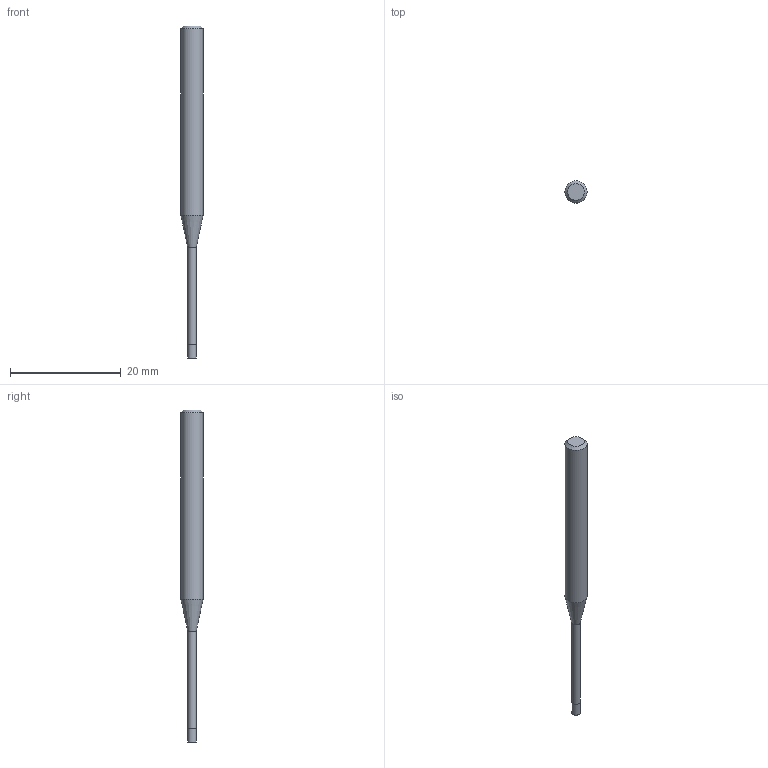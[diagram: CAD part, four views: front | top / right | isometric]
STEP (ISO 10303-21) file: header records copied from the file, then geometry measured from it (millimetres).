
FILE_DESCRIPTION((''),'2;1');
FILE_NAME('C:\Users\nsx150\AppData\Local\Temp\Mastercam 2021\17T8Q8S9EB\TEMP.step','2021-04-21T14:27:13',(''),(''),'STEP Write','Mastercam 2021 ... CNC Software, Inc.','');
FILE_SCHEMA(('AUTOMOTIVE_DESIGN'));
Length unit declared in the file: millimetre
Products named in the file (1): None
Bounding box: 4 x 4 x 60 mm (x, y, z)
Volume: 503.9 mm3; surface area: 593.8 mm2
Topology: 2 solids, 2 shells, 9 faces, 12 edges, 7 vertices
Faces by surface type: plane 4, cylinder 3, cone 2
Full cylindrical faces by diameter (mm): 1.55 x1, 1.6 x1, 4 x1
Entity records: 211 total; most frequent: DIRECTION 36, CARTESIAN_POINT 25, AXIS2_PLACEMENT_3D 18, ORIENTED_EDGE 14, EDGE_LOOP 14, STYLED_ITEM 12, ADVANCED_FACE 9, FACE_BOUND 8
